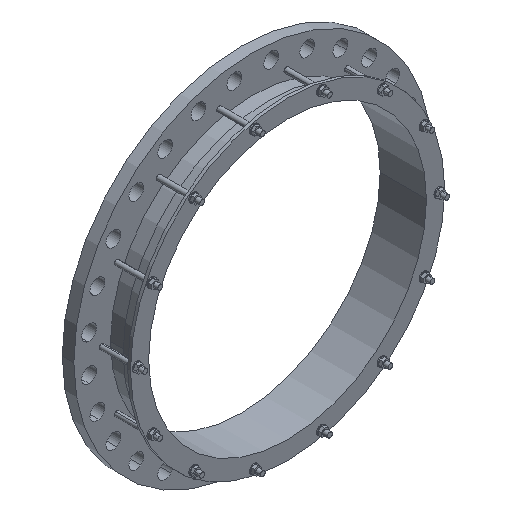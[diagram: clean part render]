
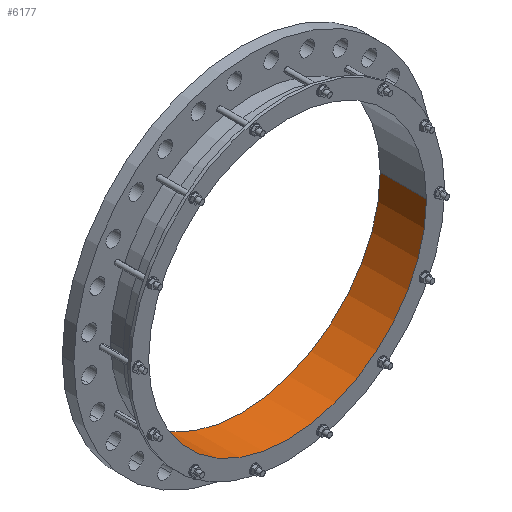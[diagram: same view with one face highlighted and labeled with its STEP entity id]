
A CAD part, isometric view. The second image highlights one B-rep face of the part: STEP entity #6177.
In plain terms, the highlighted cylindrical face has radius 459.75 mm (diameter 919.5 mm), a partial arc.
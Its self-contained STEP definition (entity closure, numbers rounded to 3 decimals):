
#7=CARTESIAN_POINT('',(0.,38.,0.));
#8=DIRECTION('',(0.,1.,0.));
#9=DIRECTION('',(1.,0.,0.));
#10=AXIS2_PLACEMENT_3D('',#7,#8,#9);
#1678=CARTESIAN_POINT('',(0.,-115.,0.));
#1679=DIRECTION('',(0.,1.,0.));
#1680=DIRECTION('',(1.,0.,0.));
#1681=AXIS2_PLACEMENT_3D('',#1678,#1679,#1680);
#1683=DIRECTION('',(0.,1.,0.));
#1684=VECTOR('',#1683,153.);
#1685=CARTESIAN_POINT('',(459.75,-115.,0.));
#1686=LINE('',#1685,#1684);
#1687=DIRECTION('',(0.,1.,0.));
#1688=VECTOR('',#1687,153.);
#1689=CARTESIAN_POINT('',(-459.75,-115.,0.));
#1690=LINE('',#1689,#1688);
#4234=CARTESIAN_POINT('',(459.75,-115.,0.));
#4235=CARTESIAN_POINT('',(459.75,38.,0.));
#4236=VERTEX_POINT('',#4234);
#4237=VERTEX_POINT('',#4235);
#4246=CARTESIAN_POINT('',(-459.75,-115.,0.));
#4247=CARTESIAN_POINT('',(-459.75,38.,0.));
#4248=VERTEX_POINT('',#4246);
#4249=VERTEX_POINT('',#4247);
#6164=CARTESIAN_POINT('',(0.,-122.65,0.));
#6165=DIRECTION('',(0.,1.,0.));
#6166=DIRECTION('',(-1.,0.,0.));
#6167=AXIS2_PLACEMENT_3D('',#6164,#6165,#6166);
#6168=CYLINDRICAL_SURFACE('',#6167,459.75);
#6170=ORIENTED_EDGE('',*,*,#6169,.F.);
#6171=ORIENTED_EDGE('',*,*,#6075,.T.);
#6173=ORIENTED_EDGE('',*,*,#6172,.T.);
#6174=ORIENTED_EDGE('',*,*,#5207,.F.);
#6175=EDGE_LOOP('',(#6170,#6171,#6173,#6174));
#6176=FACE_OUTER_BOUND('',#6175,.F.);
#6177=ADVANCED_FACE('',(#6176),#6168,.F.);
#11=CIRCLE('',#10,459.75);
#1682=CIRCLE('',#1681,459.75);
#5207=EDGE_CURVE('',#4237,#4249,#11,.T.);
#6075=EDGE_CURVE('',#4236,#4248,#1682,.T.);
#6169=EDGE_CURVE('',#4236,#4237,#1686,.T.);
#6172=EDGE_CURVE('',#4248,#4249,#1690,.T.);
